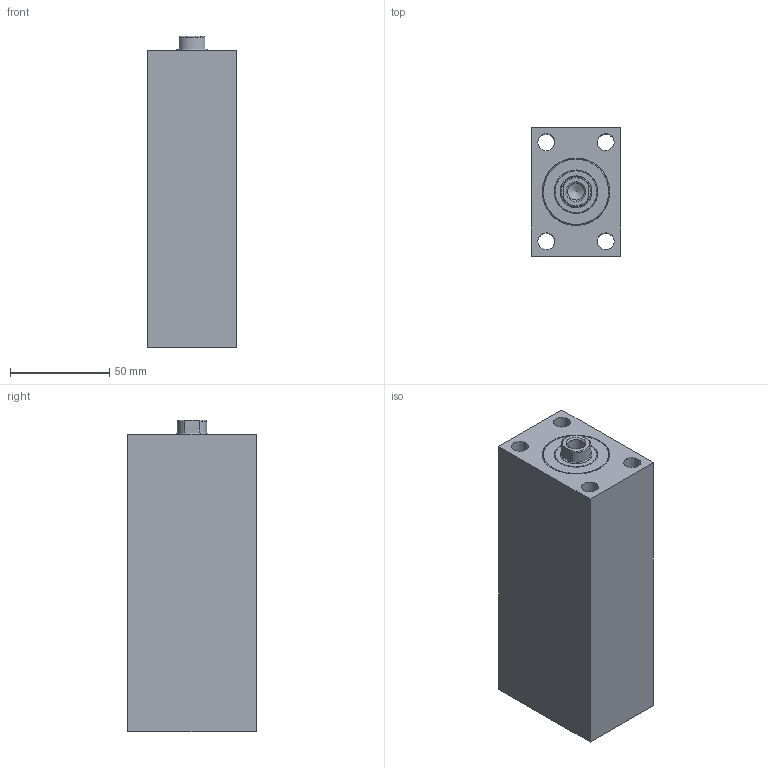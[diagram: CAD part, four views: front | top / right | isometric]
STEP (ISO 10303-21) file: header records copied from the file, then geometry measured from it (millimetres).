
FILE_DESCRIPTION( ( 'STEP AP203' ), '1' );
FILE_NAME( 'C:/Users/SAYKO.ltd/Desktop/SBZ100/02/SBZ100-25/SBZ100.25__FORM_02_STROKE_85__H2_58_POS_0_.stp', ' ', ( ' ' ), ( ' ' ), 'PSStep 15.0.47', 'PARTsolutions', ' ' );
FILE_SCHEMA( ( 'CONFIG_CONTROL_DESIGN' ) );
Length unit declared in the file: millimetre
Products named in the file (5): SBZ100.25  FORM=02 STROKE=85 (H2=58 POS=0); HI_SBZ10025  FORM=02 STROKE=85 H2=58 -C; HI_SBZ10025  FORM=02 STROKE=85-R; HI_SBZ100.25-C; HI_SBZ100.25-S
Assembly tree (4 placements, depth 2):
  SBZ100.25  FORM=02 STROKE=85 (H2=58 POS=0)
    HI_SBZ10025  FORM=02 STROKE=85 H2=58 -C
    HI_SBZ10025  FORM=02 STROKE=85-R
    HI_SBZ100.25-C
    HI_SBZ100.25-S
Bounding box: 45 x 65 x 157 mm (x, y, z)
Volume: 373459.8 mm3; surface area: 83960 mm2
Topology: 4 solids, 4 shells, 66 faces, 130 edges, 85 vertices
Faces by surface type: plane 31, cylinder 28, cone 4, torus 3
Full cylindrical faces by diameter (mm): 3 x2, 8.376 x1, 8.5 x4, 11.445 x2, 13.6 x4, 16 x6, 22 x1, 24 x2, 25 x2, 34 x2
Entity records: 3609 total; most frequent: CARTESIAN_POINT 2379, ORIENTED_EDGE 176, DIRECTION 158, EDGE_LOOP 128, FACE_OUTER_BOUND 93, EDGE_CURVE 88, VERTEX_POINT 77, B_SPLINE_CURVE_WITH_KNOTS 72
